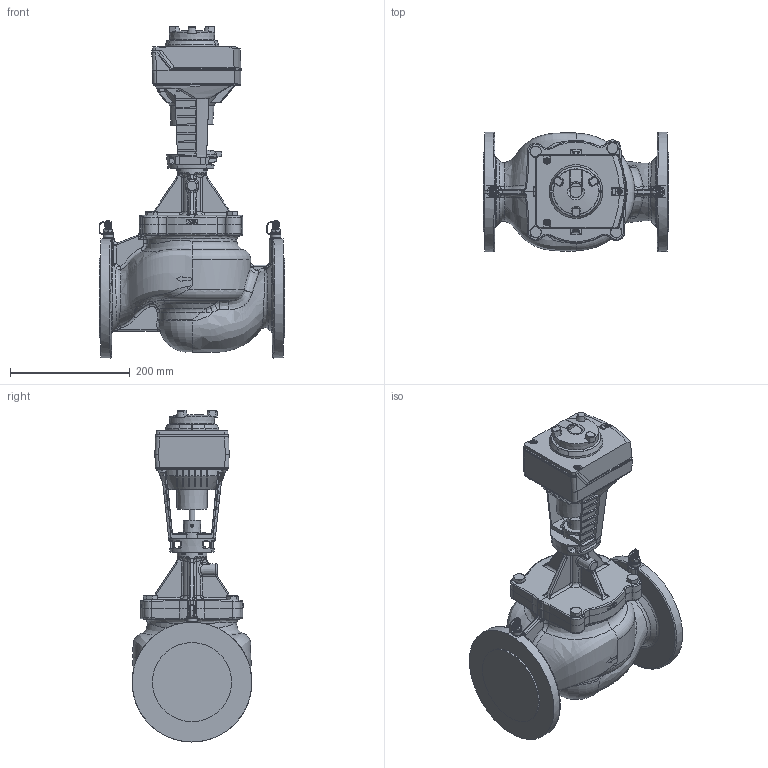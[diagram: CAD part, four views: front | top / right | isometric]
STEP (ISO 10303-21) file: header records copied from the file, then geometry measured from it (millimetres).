
FILE_DESCRIPTION((''),'2;1');
FILE_NAME('C:\Documents and Settings\jjo\Skrivebord\53-1202 incl actuator.stp','2012-12-06T11:14:48',('JJO'),(''),'Autodesk Inventor 2012','Autodesk Inventor 2012','');
FILE_SCHEMA(('AUTOMOTIVE_DESIGN { 1 0 10303 214 1 1 1 1 }'));
Length unit declared in the file: millimetre
Products named in the file (1): 53-1202 incl actuator_Shrinkwrap_1
Bounding box: 310 x 199.92 x 554.43 mm (x, y, z)
Surface area: 910077 mm2 (no closed solid volume)
Topology: 0 solids, 55 shells, 3251 faces, 8550 edges, 5416 vertices
Faces by surface type: plane 1419, bspline 690, cylinder 649, cone 260, torus 175, sphere 47, revolution 11
Full cylindrical faces by diameter (mm): 2.9 x2, 3.8 x1, 5 x6, 6 x1, 7 x1, 8 x2, 8.05 x1, 8.5 x2, 9 x3, 9.728 x2, 10 x4, 10.8 x1, 11 x2, 11.5 x2, 11.7 x2, 12 x5, 12.4 x1, 13.157 x2, 15 x1, 16.04 x2, 16.63 x4, 17 x4, 18 x2, 20 x1, 21.7 x1, 22 x1, 23.7 x1, 27 x1, 29 x1, 35.456 x1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
Entity records: 160629 total; most frequent: CARTESIAN_POINT 84270, ORIENTED_EDGE 16516, DIRECTION 13511, EDGE_CURVE 8258, VERTEX_POINT 5381, AXIS2_PLACEMENT_3D 5314, EDGE_LOOP 3553, FACE_OUTER_BOUND 3250
